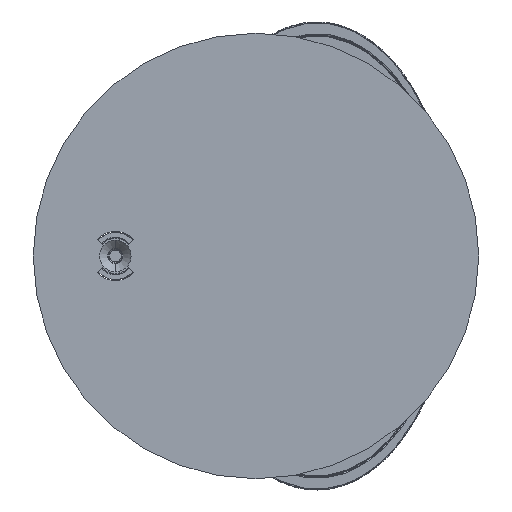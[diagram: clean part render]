
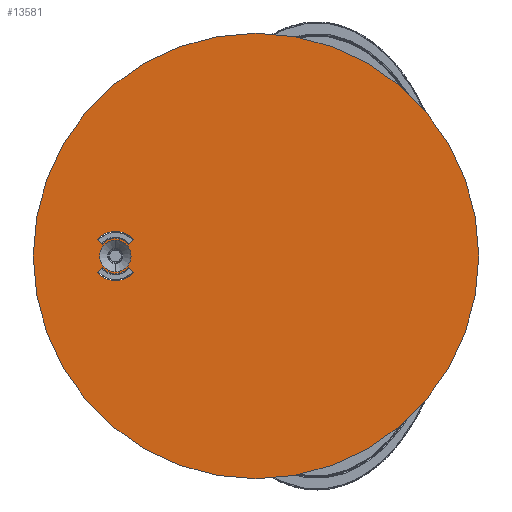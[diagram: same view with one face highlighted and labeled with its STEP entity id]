
A CAD part, front view. The second image highlights one B-rep face of the part: STEP entity #13581.
In plain terms, the highlighted planar face has unit normal (0, -1, 0) as drawn and (0, 1, 0) by its records, which use the part's own axes.
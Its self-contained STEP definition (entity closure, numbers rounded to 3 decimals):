
#111 = CARTESIAN_POINT ( 'NONE',  ( 0., 6., 0. ) ) ;
#195 = DIRECTION ( 'NONE',  ( 0., 0., 1. ) ) ;
#198 = EDGE_LOOP ( 'NONE', ( #21669, #11717 ) ) ;
#864 = CIRCLE ( 'NONE', #9932, 6.72 ) ;
#868 = VERTEX_POINT ( 'NONE', #22995 ) ;
#889 = ORIENTED_EDGE ( 'NONE', *, *, #20588, .F. ) ;
#1085 = DIRECTION ( 'NONE',  ( 0.743, 0., -0.669 ) ) ;
#1155 = AXIS2_PLACEMENT_3D ( 'NONE', #2424, #13098, #195 ) ;
#1508 = EDGE_CURVE ( 'NONE', #11200, #868, #9384, .T. ) ;
#1695 = CARTESIAN_POINT ( 'NONE',  ( -54.426, 6., 5.01 ) ) ;
#1968 = FACE_BOUND ( 'NONE', #22253, .T. ) ;
#2056 = CARTESIAN_POINT ( 'NONE',  ( 0., 6., -95. ) ) ;
#2424 = CARTESIAN_POINT ( 'NONE',  ( 95., 6., 0. ) ) ;
#2537 = VERTEX_POINT ( 'NONE', #14845 ) ;
#3163 = EDGE_CURVE ( 'NONE', #13691, #11200, #4884, .T. ) ;
#3653 = AXIS2_PLACEMENT_3D ( 'NONE', #22226, #3716, #9394 ) ;
#3716 = DIRECTION ( 'NONE',  ( 0., 1., 0. ) ) ;
#3810 = VERTEX_POINT ( 'NONE', #12860 ) ;
#4076 = DIRECTION ( 'NONE',  ( 0., 1., 0. ) ) ;
#4157 = CIRCLE ( 'NONE', #22360, 7.5 ) ;
#4478 = CARTESIAN_POINT ( 'NONE',  ( -65.574, 6., -5.027 ) ) ;
#4730 = CARTESIAN_POINT ( 'NONE',  ( 0., 6., 95. ) ) ;
#4795 = CIRCLE ( 'NONE', #3653, 10.5 ) ;
#4813 = VECTOR ( 'NONE', #15425, 1000. ) ;
#4847 = EDGE_CURVE ( 'NONE', #5554, #21134, #4157, .T. ) ;
#4884 = CIRCLE ( 'NONE', #13204, 10.5 ) ;
#5033 = CARTESIAN_POINT ( 'NONE',  ( -67.803, 6., 7.017 ) ) ;
#5503 = AXIS2_PLACEMENT_3D ( 'NONE', #6914, #7027, #17686 ) ;
#5521 = PLANE ( 'NONE',  #1155 ) ;
#5554 = VERTEX_POINT ( 'NONE', #14978 ) ;
#6007 = EDGE_CURVE ( 'NONE', #13048, #2537, #8363, .T. ) ;
#6074 = DIRECTION ( 'NONE',  ( 0., -1., 0. ) ) ;
#6415 = LINE ( 'NONE', #17306, #16145 ) ;
#6914 = CARTESIAN_POINT ( 'NONE',  ( 0., 6., 0. ) ) ;
#6960 = ORIENTED_EDGE ( 'NONE', *, *, #4847, .F. ) ;
#7027 = DIRECTION ( 'NONE',  ( 0., -1., 0. ) ) ;
#7120 = DIRECTION ( 'NONE',  ( 0., 1., 0. ) ) ;
#7466 = DIRECTION ( 'NONE',  ( 0., -1., 0. ) ) ;
#7662 = FACE_BOUND ( 'NONE', #23014, .T. ) ;
#7689 = DIRECTION ( 'NONE',  ( 0., 0., 1. ) ) ;
#8073 = AXIS2_PLACEMENT_3D ( 'NONE', #111, #7466, #16455 ) ;
#8094 = CARTESIAN_POINT ( 'NONE',  ( -60., 6., 0. ) ) ;
#8111 = DIRECTION ( 'NONE',  ( 0., 0., 1. ) ) ;
#8363 = CIRCLE ( 'NONE', #17042, 6.72 ) ;
#9361 = ORIENTED_EDGE ( 'NONE', *, *, #12219, .F. ) ;
#9384 = CIRCLE ( 'NONE', #18474, 10.5 ) ;
#9394 = DIRECTION ( 'NONE',  ( 0., 0., 1. ) ) ;
#9544 = CARTESIAN_POINT ( 'NONE',  ( -67.803, 6., -7.035 ) ) ;
#9649 = CIRCLE ( 'NONE', #5503, 95. ) ;
#9862 = LINE ( 'NONE', #19225, #4813 ) ;
#9932 = AXIS2_PLACEMENT_3D ( 'NONE', #8094, #19098, #10079 ) ;
#10079 = DIRECTION ( 'NONE',  ( 0., 0., 1. ) ) ;
#10238 = DIRECTION ( 'NONE',  ( 0.743, 0., 0.669 ) ) ;
#10416 = CARTESIAN_POINT ( 'NONE',  ( -60., 6., -0.009 ) ) ;
#10777 = DIRECTION ( 'NONE',  ( 0., 0., 1. ) ) ;
#10791 = VERTEX_POINT ( 'NONE', #9544 ) ;
#10868 = DIRECTION ( 'NONE',  ( 0., 0., 1. ) ) ;
#11042 = CARTESIAN_POINT ( 'NONE',  ( -65.574, 6., 5.01 ) ) ;
#11200 = VERTEX_POINT ( 'NONE', #20099 ) ;
#11428 = VERTEX_POINT ( 'NONE', #11042 ) ;
#11449 = EDGE_CURVE ( 'NONE', #868, #5554, #21856, .T. ) ;
#11456 = CIRCLE ( 'NONE', #8073, 95. ) ;
#11624 = CARTESIAN_POINT ( 'NONE',  ( -60., 6., -0.009 ) ) ;
#11717 = ORIENTED_EDGE ( 'NONE', *, *, #14004, .F. ) ;
#12219 = EDGE_CURVE ( 'NONE', #22982, #17409, #20220, .T. ) ;
#12452 = VERTEX_POINT ( 'NONE', #4730 ) ;
#12827 = CARTESIAN_POINT ( 'NONE',  ( -60., 6., -0.009 ) ) ;
#12860 = CARTESIAN_POINT ( 'NONE',  ( -52.197, 6., -7.035 ) ) ;
#13006 = CARTESIAN_POINT ( 'NONE',  ( -60., 6., -0.009 ) ) ;
#13048 = VERTEX_POINT ( 'NONE', #15780 ) ;
#13098 = DIRECTION ( 'NONE',  ( 0., 1., 0. ) ) ;
#13204 = AXIS2_PLACEMENT_3D ( 'NONE', #22592, #4076, #8111 ) ;
#13581 = ADVANCED_FACE ( 'NONE', ( #7662, #1968, #21781, #18661 ), #5521, .T. ) ;
#13691 = VERTEX_POINT ( 'NONE', #5033 ) ;
#13815 = CARTESIAN_POINT ( 'NONE',  ( -65.574, 6., -5.027 ) ) ;
#14004 = EDGE_CURVE ( 'NONE', #2537, #13048, #864, .T. ) ;
#14176 = ORIENTED_EDGE ( 'NONE', *, *, #11449, .F. ) ;
#14199 = EDGE_CURVE ( 'NONE', #17674, #12452, #11456, .T. ) ;
#14204 = ORIENTED_EDGE ( 'NONE', *, *, #3163, .F. ) ;
#14502 = EDGE_LOOP ( 'NONE', ( #22604, #19880 ) ) ;
#14663 = DIRECTION ( 'NONE',  ( 0., -1., 0. ) ) ;
#14738 = ORIENTED_EDGE ( 'NONE', *, *, #15483, .F. ) ;
#14845 = CARTESIAN_POINT ( 'NONE',  ( -60., 6., -6.72 ) ) ;
#14978 = CARTESIAN_POINT ( 'NONE',  ( -54.426, 6., 5.01 ) ) ;
#15204 = CARTESIAN_POINT ( 'NONE',  ( -60., 6., 7.491 ) ) ;
#15282 = VECTOR ( 'NONE', #19831, 1000. ) ;
#15425 = DIRECTION ( 'NONE',  ( -0.743, 0., 0.669 ) ) ;
#15483 = EDGE_CURVE ( 'NONE', #21134, #11428, #17833, .T. ) ;
#15580 = ORIENTED_EDGE ( 'NONE', *, *, #20461, .F. ) ;
#15780 = CARTESIAN_POINT ( 'NONE',  ( -60., 6., 6.72 ) ) ;
#15807 = VECTOR ( 'NONE', #10238, 1000. ) ;
#16046 = CARTESIAN_POINT ( 'NONE',  ( -54.426, 6., -5.027 ) ) ;
#16076 = ORIENTED_EDGE ( 'NONE', *, *, #19457, .F. ) ;
#16145 = VECTOR ( 'NONE', #1085, 1000. ) ;
#16455 = DIRECTION ( 'NONE',  ( 0., 0., -1. ) ) ;
#17042 = AXIS2_PLACEMENT_3D ( 'NONE', #21568, #22159, #7689 ) ;
#17306 = CARTESIAN_POINT ( 'NONE',  ( -54.426, 6., -5.027 ) ) ;
#17324 = ORIENTED_EDGE ( 'NONE', *, *, #1508, .F. ) ;
#17409 = VERTEX_POINT ( 'NONE', #16046 ) ;
#17674 = VERTEX_POINT ( 'NONE', #2056 ) ;
#17686 = DIRECTION ( 'NONE',  ( 0., 0., -1. ) ) ;
#17833 = CIRCLE ( 'NONE', #19741, 7.5 ) ;
#18044 = DIRECTION ( 'NONE',  ( 0., 0., 1. ) ) ;
#18474 = AXIS2_PLACEMENT_3D ( 'NONE', #10416, #7120, #10777 ) ;
#18506 = EDGE_CURVE ( 'NONE', #12452, #17674, #9649, .T. ) ;
#18632 = DIRECTION ( 'NONE',  ( 0., 0., 1. ) ) ;
#18661 = FACE_OUTER_BOUND ( 'NONE', #14502, .T. ) ;
#19098 = DIRECTION ( 'NONE',  ( 0., 1., 0. ) ) ;
#19225 = CARTESIAN_POINT ( 'NONE',  ( -65.574, 6., 5.01 ) ) ;
#19457 = EDGE_CURVE ( 'NONE', #17409, #3810, #6415, .T. ) ;
#19741 = AXIS2_PLACEMENT_3D ( 'NONE', #13006, #14663, #10868 ) ;
#19831 = DIRECTION ( 'NONE',  ( -0.743, 0., -0.669 ) ) ;
#19880 = ORIENTED_EDGE ( 'NONE', *, *, #18506, .F. ) ;
#20075 = DIRECTION ( 'NONE',  ( 0., -1., 0. ) ) ;
#20099 = CARTESIAN_POINT ( 'NONE',  ( -60., 6., 10.491 ) ) ;
#20199 = ORIENTED_EDGE ( 'NONE', *, *, #22530, .F. ) ;
#20220 = CIRCLE ( 'NONE', #23285, 7.5 ) ;
#20461 = EDGE_CURVE ( 'NONE', #3810, #10791, #4795, .T. ) ;
#20588 = EDGE_CURVE ( 'NONE', #11428, #13691, #9862, .T. ) ;
#21053 = LINE ( 'NONE', #13815, #15807 ) ;
#21134 = VERTEX_POINT ( 'NONE', #15204 ) ;
#21568 = CARTESIAN_POINT ( 'NONE',  ( -60., 6., 0. ) ) ;
#21669 = ORIENTED_EDGE ( 'NONE', *, *, #6007, .F. ) ;
#21781 = FACE_BOUND ( 'NONE', #198, .T. ) ;
#21856 = LINE ( 'NONE', #1695, #15282 ) ;
#22159 = DIRECTION ( 'NONE',  ( 0., 1., 0. ) ) ;
#22226 = CARTESIAN_POINT ( 'NONE',  ( -60., 6., -0.009 ) ) ;
#22253 = EDGE_LOOP ( 'NONE', ( #15580, #16076, #9361, #20199 ) ) ;
#22360 = AXIS2_PLACEMENT_3D ( 'NONE', #11624, #6074, #18632 ) ;
#22530 = EDGE_CURVE ( 'NONE', #10791, #22982, #21053, .T. ) ;
#22592 = CARTESIAN_POINT ( 'NONE',  ( -60., 6., -0.009 ) ) ;
#22604 = ORIENTED_EDGE ( 'NONE', *, *, #14199, .F. ) ;
#22982 = VERTEX_POINT ( 'NONE', #4478 ) ;
#22995 = CARTESIAN_POINT ( 'NONE',  ( -52.197, 6., 7.017 ) ) ;
#23014 = EDGE_LOOP ( 'NONE', ( #6960, #14176, #17324, #14204, #889, #14738 ) ) ;
#23285 = AXIS2_PLACEMENT_3D ( 'NONE', #12827, #20075, #18044 ) ;
